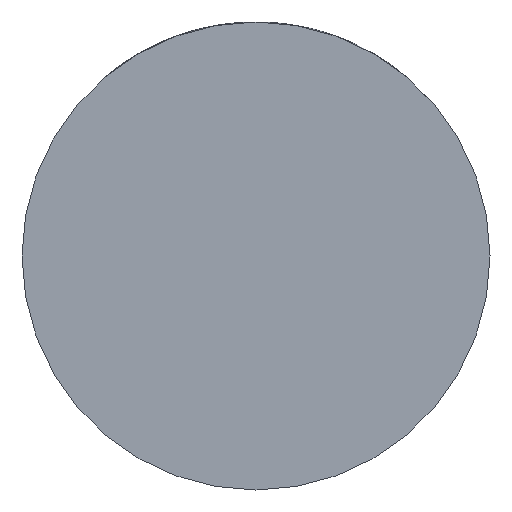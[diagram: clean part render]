
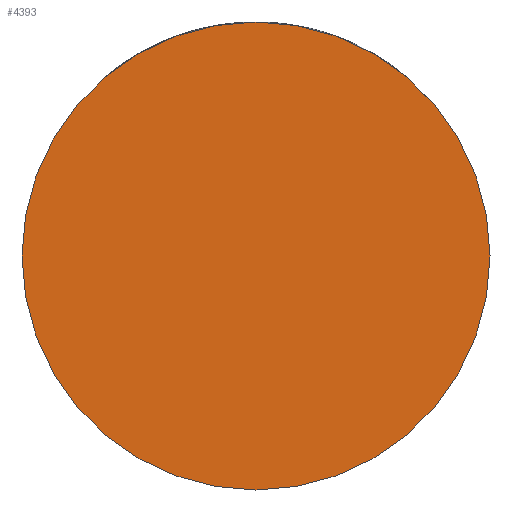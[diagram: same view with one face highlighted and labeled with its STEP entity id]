
A CAD part, front view. The second image highlights one B-rep face of the part: STEP entity #4393.
In plain terms, the highlighted planar face has unit normal (0, -1, 0).
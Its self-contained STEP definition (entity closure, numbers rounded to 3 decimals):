
#356 = ORIENTED_EDGE ( 'NONE', *, *, #1464, .T. ) ;
#460 = DIRECTION ( 'NONE',  ( 1., 0., 0. ) ) ;
#768 = EDGE_LOOP ( 'NONE', ( #1052, #356 ) ) ;
#802 = VERTEX_POINT ( 'NONE', #2226 ) ;
#812 = AXIS2_PLACEMENT_3D ( 'NONE', #3749, #2008, #1677 ) ;
#1052 = ORIENTED_EDGE ( 'NONE', *, *, #3337, .T. ) ;
#1464 = EDGE_CURVE ( 'NONE', #802, #4268, #3969, .T. ) ;
#1677 = DIRECTION ( 'NONE',  ( 1., 0., 0. ) ) ;
#1787 = DIRECTION ( 'NONE',  ( 1., 0., 0. ) ) ;
#1817 = CARTESIAN_POINT ( 'NONE',  ( -29.5, -33., 0. ) ) ;
#2008 = DIRECTION ( 'NONE',  ( 0., -1., 0. ) ) ;
#2088 = FACE_OUTER_BOUND ( 'NONE', #768, .T. ) ;
#2226 = CARTESIAN_POINT ( 'NONE',  ( 29.5, -33., 0. ) ) ;
#2429 = CIRCLE ( 'NONE', #3024, 29.5 ) ;
#2474 = CARTESIAN_POINT ( 'NONE',  ( 0., -33., 0. ) ) ;
#2795 = AXIS2_PLACEMENT_3D ( 'NONE', #2474, #4250, #1787 ) ;
#3024 = AXIS2_PLACEMENT_3D ( 'NONE', #3289, #4253, #460 ) ;
#3289 = CARTESIAN_POINT ( 'NONE',  ( 0., -33., 0. ) ) ;
#3337 = EDGE_CURVE ( 'NONE', #4268, #802, #2429, .T. ) ;
#3749 = CARTESIAN_POINT ( 'NONE',  ( 0., -33., 0. ) ) ;
#3789 = PLANE ( 'NONE',  #2795 ) ;
#3969 = CIRCLE ( 'NONE', #812, 29.5 ) ;
#4250 = DIRECTION ( 'NONE',  ( 0., -1., 0. ) ) ;
#4253 = DIRECTION ( 'NONE',  ( 0., -1., 0. ) ) ;
#4268 = VERTEX_POINT ( 'NONE', #1817 ) ;
#4393 = ADVANCED_FACE ( 'NONE', ( #2088 ), #3789, .T. ) ;
